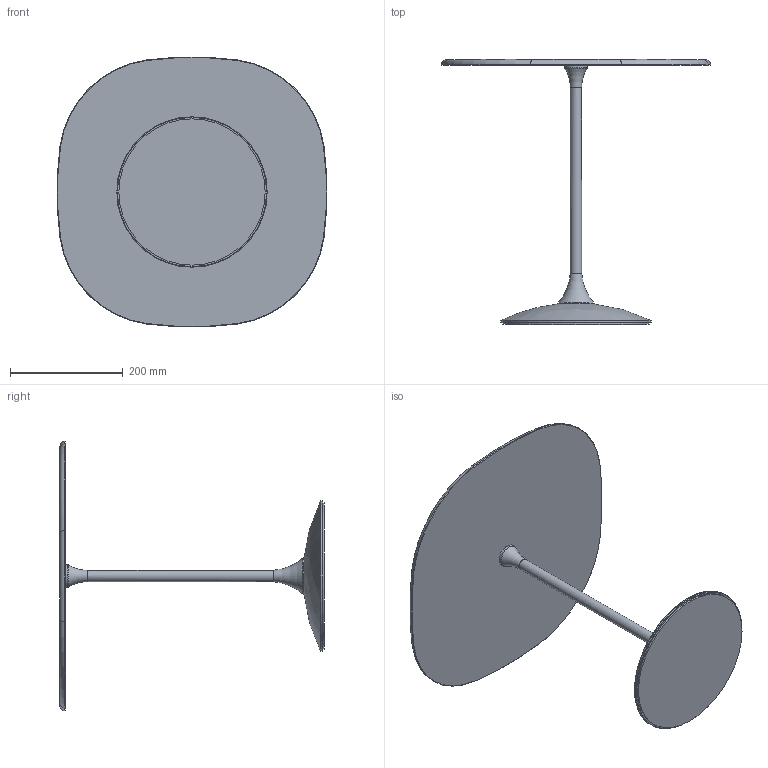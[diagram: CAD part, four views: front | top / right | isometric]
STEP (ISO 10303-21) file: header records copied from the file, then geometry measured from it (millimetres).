
FILE_DESCRIPTION((''),'2;1');
FILE_NAME('C:\AutodeskVault\AreaLavoro\Progetti\SoVeT Italia\2. Tavolini_Coffee tables\Tulip\Web file\Tulip Web\P4602.stp','2012-06-14T17:26:13',('Gianluca'),('So.Ve.T. s.r.l.'),'Autodesk Inventor 2013','Autodesk Inventor 2013','IL PROGETTO E'' DI ESCLUSIVA PROPRIETA'' DELLA SO.VE.T. srl. E'' VIETATA OGNI RIPRODUZIONE TOTALE O PARZIALE E QUALSIASI UTILIZZO NON AUTORIZZATO. ');
FILE_SCHEMA(('AUTOMOTIVE_DESIGN { 1 0 10303 214 1 1 1 1 }'));
Length unit declared in the file: millimetre
Products named in the file (1): P4602 LCTR Contorno semplificato
Bounding box: 478.8 x 470.45 x 478.8 mm (x, y, z)
Volume: 3394203.5 mm3; surface area: 549798.8 mm2
Topology: 1 solids, 1 shells, 40 faces, 85 edges, 50 vertices
Faces by surface type: torus 14, cone 14, plane 6, cylinder 5, bspline 1
Full cylindrical faces by diameter (mm): 20 x1, 40 x1, 60 x1, 260 x1, 267 x1
Entity records: 1066 total; most frequent: DIRECTION 196, CARTESIAN_POINT 174, ORIENTED_EDGE 124, AXIS2_PLACEMENT_3D 94, EDGE_CURVE 62, EDGE_LOOP 62, CIRCLE 54, VERTEX_POINT 45
